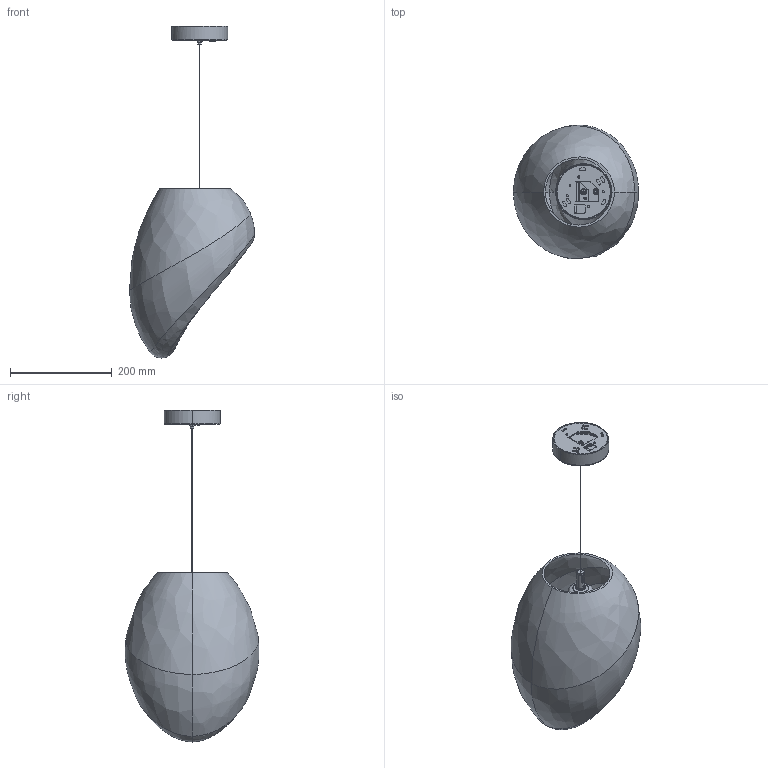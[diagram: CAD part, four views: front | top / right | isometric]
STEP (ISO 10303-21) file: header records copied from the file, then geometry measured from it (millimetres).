
FILE_DESCRIPTION(/* description */ (''),/* implementation_level */ '2;1');
FILE_NAME(/* name */ '00457MP0AT0 - LIGHTBODY S',/* time_stamp */ '2023-05-04T11:17:10+02:00',/* author */ (''),/* organization */ (''),/* preprocessor_version */ 'ST-DEVELOPER v16.5',/* originating_system */ 'Rhino 7.27',/* authorisation */ '');
FILE_SCHEMA (('CONFIG_CONTROL_DESIGN'));
Length unit declared in the file: millimetre
Products named in the file (1): Document
Bounding box: 246 x 263.22 x 653 mm (x, y, z)
Volume: 836466.8 mm3; surface area: 598913.7 mm2
Topology: 17 solids, 17 shells, 479 faces, 1281 edges, 885 vertices
Faces by surface type: plane 218, cylinder 163, bspline 98
Entity records: 27679 total; most frequent: CARTESIAN_POINT 18797, ORIENTED_EDGE 2556, EDGE_CURVE 1278, VERTEX_POINT 883, B_SPLINE_CURVE_WITH_KNOTS 721, EDGE_LOOP 587, ADVANCED_FACE 479, FACE_OUTER_BOUND 479
